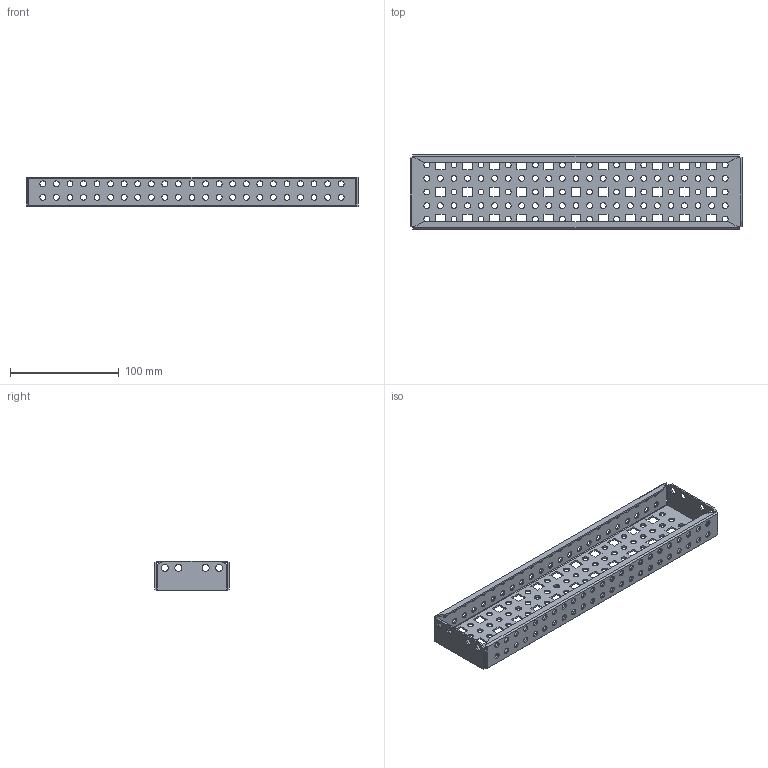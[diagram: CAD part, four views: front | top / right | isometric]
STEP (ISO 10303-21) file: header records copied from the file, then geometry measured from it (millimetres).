
FILE_DESCRIPTION (( 'STEP AP214' ), '1' );
FILE_NAME ('YKM40D-FO-VRÂ-040 Ðåéêà ìîíòàæíàÿ, òèï Â.STEP', '2025-08-14T07:03:24', ( '' ), ( '' ), 'SwSTEP 2.0', 'SolidWorks 2023', '' );
FILE_SCHEMA (( 'AUTOMOTIVE_DESIGN' ));
Length unit declared in the file: millimetre
Products named in the file (1): YKM40D-FO-VRВ-040 Рейка монтажная, тип В
Bounding box: 306 x 69 x 27 mm (x, y, z)
Volume: 52901.6 mm3; surface area: 78356.8 mm2
Topology: 1 solids, 1 shells, 546 faces, 1632 edges, 1088 vertices
Faces by surface type: cylinder 364, plane 182
Entity records: 19587 total; most frequent: DIRECTION 3454, CARTESIAN_POINT 3267, ORIENTED_EDGE 3264, EDGE_CURVE 1632, AXIS2_PLACEMENT_3D 1275, VERTEX_POINT 1088, EDGE_LOOP 976, LINE 904
